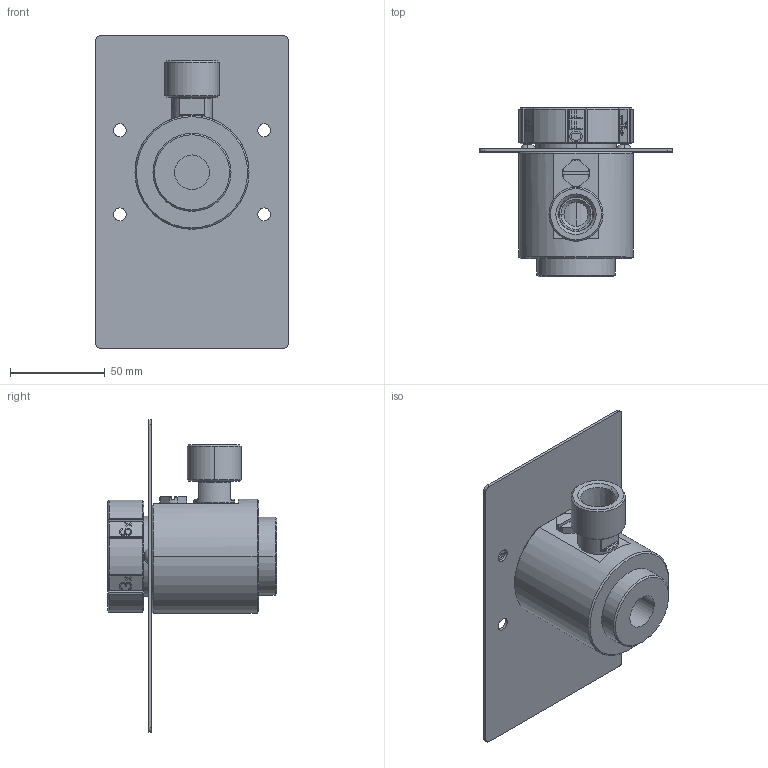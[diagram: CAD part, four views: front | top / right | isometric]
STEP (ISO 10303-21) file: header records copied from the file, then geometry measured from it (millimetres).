
FILE_DESCRIPTION((''),'2;1');
FILE_NAME('31261000_00','2015-11-18T',('sobri'),(''),'CREO PARAMETRIC BY PTC INC, 2015290','CREO PARAMETRIC BY PTC INC, 2015290','');
FILE_SCHEMA(('CONFIG_CONTROL_DESIGN'));
Length unit declared in the file: inch
Products named in the file (1): 31261000_00
Bounding box: 101.6 x 89.37 x 165.1 mm (x, y, z)
Surface area: 81798.9 mm2 (no closed solid volume)
Topology: 0 solids, 68 shells, 424 faces, 2612 edges, 2222 vertices
Faces by surface type: plane 283, cylinder 66, cone 41, bspline 24, torus 4, sphere 4, extrusion 2
Entity records: 27610 total; most frequent: CARTESIAN_POINT 8423, DIRECTION 3479, ORIENTED_EDGE 3434, EDGE_CURVE 2608, VECTOR 2253, LINE 2251, VERTEX_POINT 2222, AXIS2_PLACEMENT_3D 613
